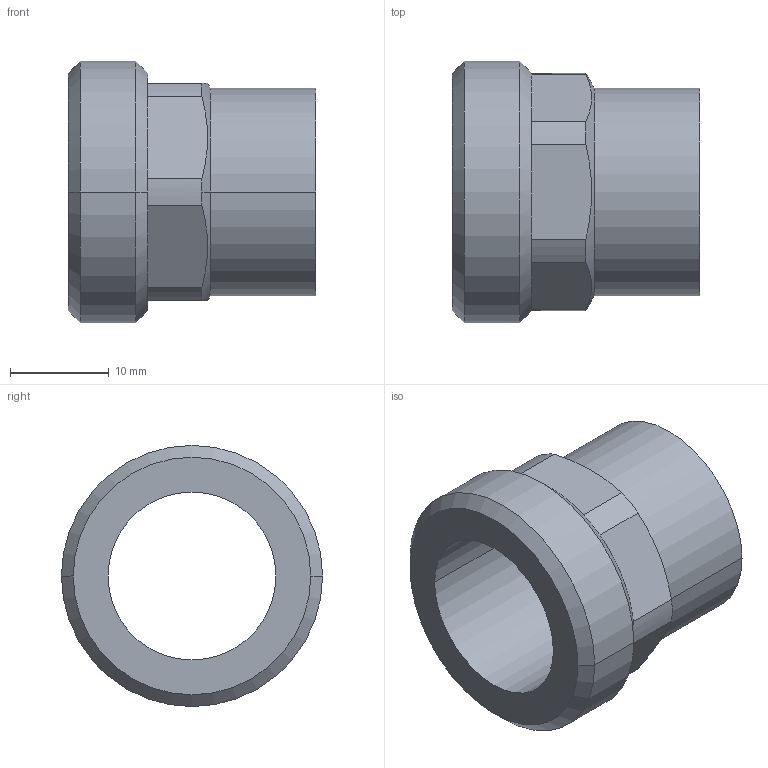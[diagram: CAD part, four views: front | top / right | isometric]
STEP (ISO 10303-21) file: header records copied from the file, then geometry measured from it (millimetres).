
FILE_DESCRIPTION((''),'2;1');
FILE_NAME('14370_18-34(1).stp','2009-11-06T08:46:15',(''),(''),'Mechanical Desktop 2009','Mechanical Desktop 2009',', , ');
FILE_SCHEMA(('CONFIG_CONTROL_DESIGN'));
Length unit declared in the file: millimetre
Products named in the file (2): 4370-18-34_(1); CZﾊ姑1
Assembly tree (1 placements, depth 2):
  4370-18-34_(1)
    CZﾊ姑1
Bounding box: 25 x 26.44 x 26.44 mm (x, y, z)
Volume: 4539.4 mm3; surface area: 3703.8 mm2
Topology: 1 solids, 1 shells, 30 faces, 73 edges, 47 vertices
Faces by surface type: cylinder 14, plane 10, cone 6
Entity records: 999 total; most frequent: DIRECTION 166, CARTESIAN_POINT 164, ORIENTED_EDGE 146, EDGE_CURVE 73, AXIS2_PLACEMENT_3D 67, VERTEX_POINT 47, CIRCLE 35, EDGE_LOOP 34
